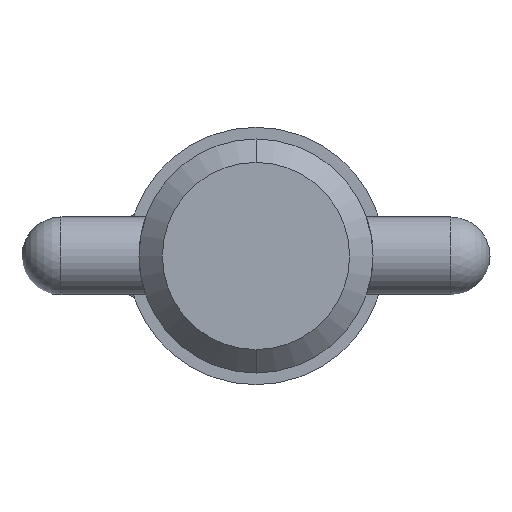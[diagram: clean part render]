
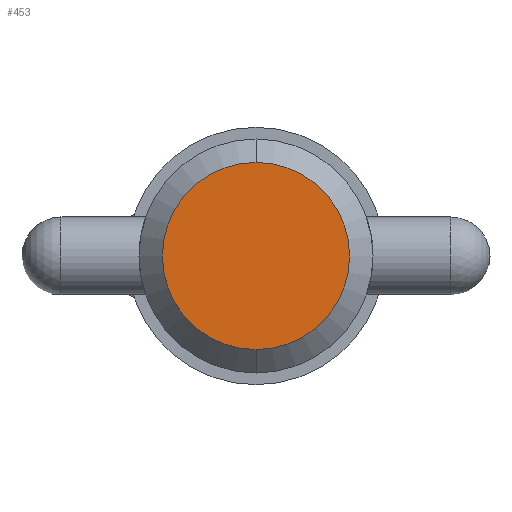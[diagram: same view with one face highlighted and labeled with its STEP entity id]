
A CAD part, left-side view. The second image highlights one B-rep face of the part: STEP entity #453.
In plain terms, the highlighted planar face has unit normal (-1, 0, 0).
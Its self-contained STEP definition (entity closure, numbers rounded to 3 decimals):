
#28 = DIRECTION ( 'NONE',  ( 0., 0., -1. ) ) ;
#49 = DIRECTION ( 'NONE',  ( 0., 0., -1. ) ) ;
#62 = CARTESIAN_POINT ( 'NONE',  ( 0., 0., 7.62 ) ) ;
#167 = CARTESIAN_POINT ( 'NONE',  ( 0., 0., 0. ) ) ;
#201 = DIRECTION ( 'NONE',  ( 1., 0., 0. ) ) ;
#268 = DIRECTION ( 'NONE',  ( 0., 0., 1. ) ) ;
#431 = DIRECTION ( 'NONE',  ( 1., 0., 0. ) ) ;
#453 = ADVANCED_FACE ( 'NONE', ( #607 ), #917, .T. ) ;
#454 = EDGE_CURVE ( 'NONE', #656, #762, #573, .T. ) ;
#573 = CIRCLE ( 'NONE', #833, 7.62 ) ;
#607 = FACE_OUTER_BOUND ( 'NONE', #650, .T. ) ;
#634 = CARTESIAN_POINT ( 'NONE',  ( 0., 0., -7.62 ) ) ;
#650 = EDGE_LOOP ( 'NONE', ( #967, #962 ) ) ;
#656 = VERTEX_POINT ( 'NONE', #634 ) ;
#665 = EDGE_CURVE ( 'NONE', #762, #656, #1021, .T. ) ;
#762 = VERTEX_POINT ( 'NONE', #62 ) ;
#816 = AXIS2_PLACEMENT_3D ( 'NONE', #1019, #201, #49 ) ;
#833 = AXIS2_PLACEMENT_3D ( 'NONE', #834, #431, #28 ) ;
#834 = CARTESIAN_POINT ( 'NONE',  ( 0., 0., 0. ) ) ;
#850 = DIRECTION ( 'NONE',  ( -1., 0., 0. ) ) ;
#917 = PLANE ( 'NONE',  #955 ) ;
#955 = AXIS2_PLACEMENT_3D ( 'NONE', #167, #850, #268 ) ;
#962 = ORIENTED_EDGE ( 'NONE', *, *, #665, .F. ) ;
#967 = ORIENTED_EDGE ( 'NONE', *, *, #454, .F. ) ;
#1019 = CARTESIAN_POINT ( 'NONE',  ( 0., 0., 0. ) ) ;
#1021 = CIRCLE ( 'NONE', #816, 7.62 ) ;
